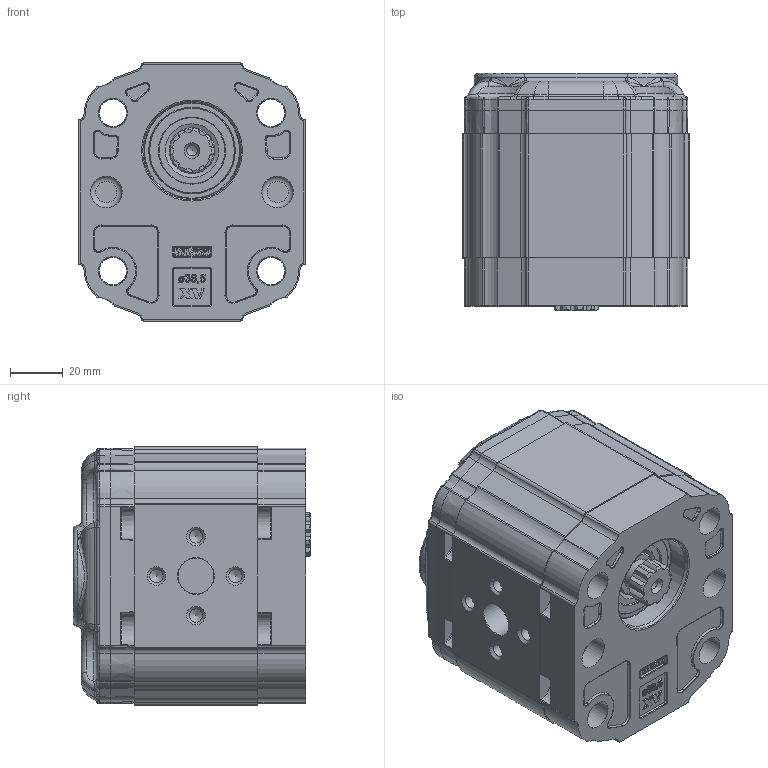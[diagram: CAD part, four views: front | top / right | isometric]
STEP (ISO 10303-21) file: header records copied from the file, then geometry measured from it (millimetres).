
FILE_DESCRIPTION(/* description */ ('Unknown'),/* implementation_level */ '2;1');
FILE_NAME(/* name */ 'X2F4172QOOA',/* time_stamp */ '2026-06-03T18:57:58+02:00',/* author */ ('Unknown'),/* organization */ ('Unknown'),/* preprocessor_version */ 'ST-DEVELOPER v16.7',/* originating_system */ 'Solid Edge',/* authorisation */ 'Unknown');
FILE_SCHEMA (('AUTOMOTIVE_DESIGN {1 0 10303 214 3 1 1}'));
Products named in the file (5): X2F4172QOOA; X2F72; 2Q; X2OOH47; XF202-A
Assembly tree (4 placements, depth 2):
  X2F4172QOOA
    X2F72
    2Q
    X2OOH47
    XF202-A
Bounding box: 86 x 90 x 98 mm (x, y, z)
Volume: 581509.5 mm3; surface area: 90660.2 mm2
Topology: 4 solids, 5 shells, 1991 faces, 4974 edges, 3064 vertices
Faces by surface type: cylinder 591, bspline 542, plane 488, torus 220, cone 129, sphere 21
Full cylindrical faces by diameter (mm): 3 x2, 4 x1, 4.917 x4, 5 x4, 10.5 x4, 11 x4, 11.5 x4, 12 x2, 12.5 x1, 13.5 x2, 17.42 x1, 23 x1, 25 x1, 32.5 x1, 36.5 x1
Entity records: 93235 total; most frequent: CARTESIAN_POINT 36996, ORIENTED_EDGE 9586, DIRECTION 7420, EDGE_CURVE 4793, VERTEX_POINT 3014, AXIS2_PLACEMENT_3D 2808, FACE_BOUND 2219, EDGE_LOOP 2209
